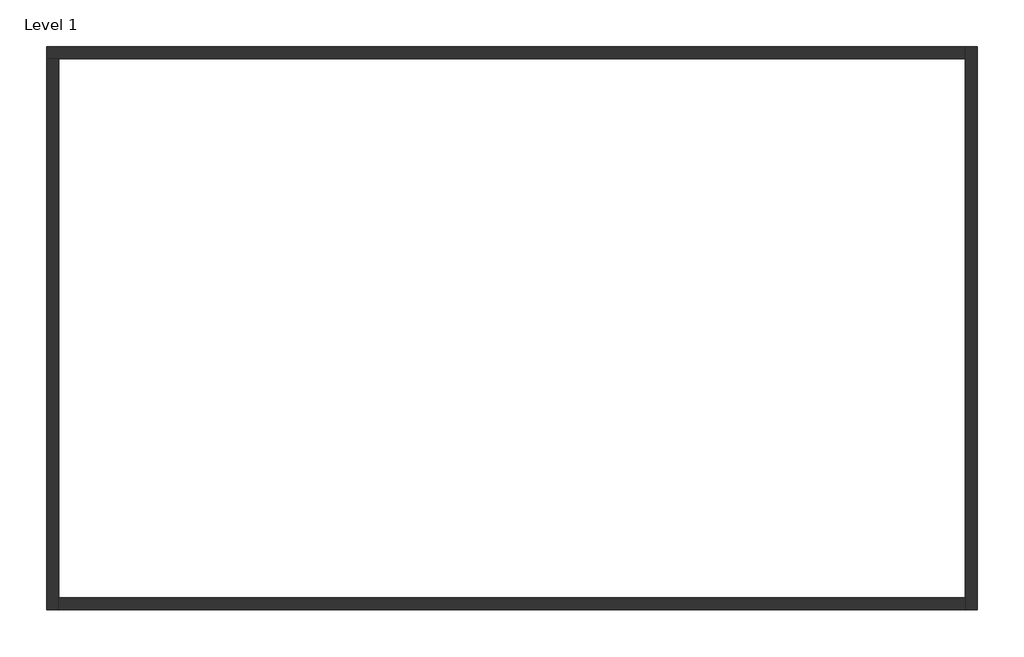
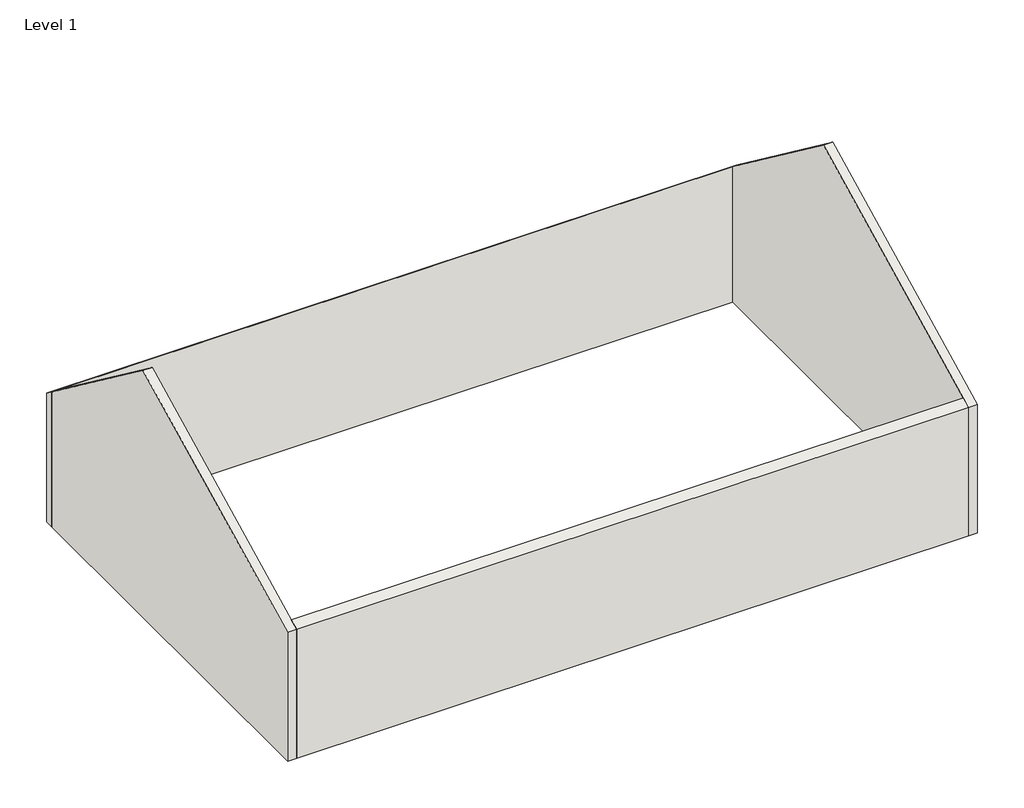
# One storey: 4 walls.
"""IFC4 building model written with IfcOpenShell, lengths in millimetres."""

from ifc_helpers import new_model, si_unit, frame, origin, place, context, project, spatial, polyline, outline, extrude, faceted_brep, element, save

model = new_model("IFC4")

# Units and contexts
model_context = context("Model", 3, world=origin())
ifc_project = project(units=[si_unit("LENGTHUNIT", "METRE", prefix="MILLI")], contexts=[model_context])

# Site, building, storey
site = spatial("IfcSite", under=ifc_project)
building = spatial("IfcBuilding", under=site)
storey = spatial("IfcBuildingStorey", under=building, Name="Level 1", Elevation=0.0)

# Walls
placement = place(None, origin())
element("IfcWall", 1, ObjectType="Generic - 8\"", at=placement, inside=storey, context=model_context, shape_type="Brep", body=[
    faceted_brep([(-7596.1466991, 6927.4122484, 0.0), (-7392.9466991, 6927.4122484, 0.0), (7643.8533009, 6927.4122484, 0.0), (7643.8533009, 6927.4122484, 3200.4), (-7392.9466991, 6927.4122484, 3200.4), (-7596.1466991, 6927.4122484, 3200.4), (-7596.1466991, 7130.6122484, 0.0), (-7596.1466991, 7130.6122484, 3048.0), (7643.8533009, 7130.6122484, 3048.0), (7643.8533009, 7130.6122484, 0.0)], [[[0, 1, 2, 3, 4, 5]], [[6, 7, 8, 9]], [[2, 1, 0, 6, 9]], [[0, 5, 7, 6]], [[3, 2, 9, 8]], [[5, 4, 3, 8, 7]]]),
])
element("IfcWall", 2, ObjectType="Generic - 8\"", at=placement, inside=storey, context=model_context, shape_type="Brep", body=[
    faceted_brep([(-7392.9466991, -2216.5877516, 0.0), (-7392.9466991, -2013.3877516, 0.0), (-7392.9466991, 6927.4122484, 0.0), (-7392.9466991, 6927.4122484, 3200.4), (-7392.9466991, 3391.7322484, 5852.16), (-7392.9466991, -2013.3877516, 3149.6), (-7392.9466991, -2216.5877516, 3048.0), (-7596.1466991, -2216.5877516, 0.0), (-7596.1466991, -2216.5877516, 3048.0), (-7596.1466991, 3391.7322484, 5852.16), (-7596.1466991, 6927.4122484, 3200.4), (-7596.1466991, 6927.4122484, 0.0)], [[[0, 1, 2, 3, 4, 5, 6]], [[7, 8, 9, 10, 11]], [[2, 1, 0, 7, 11]], [[0, 6, 8, 7]], [[3, 2, 11, 10]], [[6, 5, 4, 9, 8]], [[4, 3, 10, 9]]]),
])
element("IfcWall", 3, ObjectType="Generic - 8\"", at=placement, inside=storey, context=model_context, shape_type="SweptSolid", body=[
    extrude(outline(polyline([(-2013.3877516, 3149.6), (-2013.3877516, 0.0), (-2216.5877516, 0.0), (-2216.5877516, 3048.0), (-2013.3877516, 3149.6)])), frame((-7392.9466991, 0.0, 0.0), z_axis=(1.0, 0.0, 0.0), x_axis=(0.0, 1.0, 0.0)), (0.0, 0.0, 1.0), 15036.8),
])
element("IfcWall", 4, ObjectType="Generic - 8\"", at=placement, inside=storey, context=model_context, shape_type="Brep", body=[
    faceted_brep([(7643.8533009, 7130.6122484, 0.0), (7643.8533009, 6927.4122484, 0.0), (7643.8533009, -2013.3877516, 0.0), (7643.8533009, -2216.5877516, 0.0), (7643.8533009, -2216.5877516, 3048.0), (7643.8533009, -2013.3877516, 3149.6), (7643.8533009, 3391.7322484, 5852.16), (7643.8533009, 6927.4122484, 3200.4), (7643.8533009, 7130.6122484, 3048.0), (7847.0533009, 7130.6122484, 0.0), (7847.0533009, 7130.6122484, 3048.0), (7847.0533009, 3391.7322484, 5852.16), (7847.0533009, -2216.5877516, 3048.0), (7847.0533009, -2216.5877516, 0.0)], [[[0, 1, 2, 3, 4, 5, 6, 7, 8]], [[9, 10, 11, 12, 13]], [[3, 2, 1, 0, 9, 13]], [[0, 8, 10, 9]], [[4, 3, 13, 12]], [[8, 7, 6, 11, 10]], [[6, 5, 4, 12, 11]]]),
])

save(model, "model.ifc")
